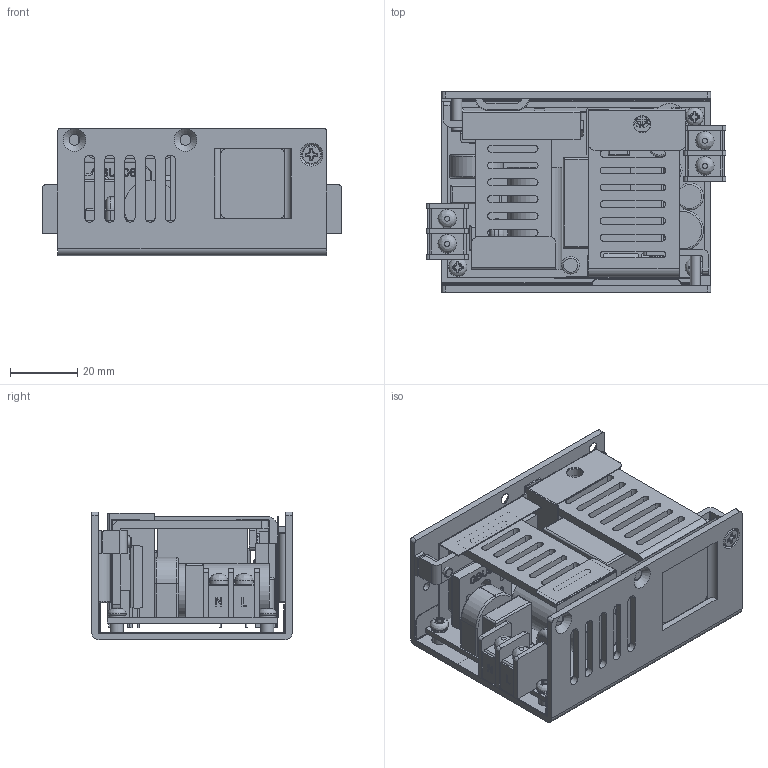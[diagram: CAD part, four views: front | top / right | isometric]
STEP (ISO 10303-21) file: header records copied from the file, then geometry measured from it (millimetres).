
FILE_DESCRIPTION(/* description */ (''),/* implementation_level */ '2;1');
FILE_NAME(/* name */ 'D:\Inventor\3D FILE\SZA60U.stp',/* time_stamp */ '2020-03-13T11:47:58+08:00',/* author */ ('peter'),/* organization */ (''),/* preprocessor_version */ 'ST-DEVELOPER v15.2',/* originating_system */ 'Autodesk Inventor 2014',/* authorisation */ '');
FILE_SCHEMA (('AUTOMOTIVE_DESIGN { 1 0 10303 214 3 1 1 }'));
Length unit declared in the file: millimetre
Products named in the file (36): BOT CASE - ARCH; M3 x 5 mm; R380MSZA6008 _ MYLAR - BOT CASE _ TRACO; PCB; BD1; HEATSINK - X1; TO-220FP; HEATSINK - X2; TO-220FP_1; TO-220FP_2; VR; INLET 9 mm; INLET 9 mm_1; INLET - IN; INLET 9 mm_2; INLET 9 mm_3; INLET - OUT; MYLAR - X1_EC102 - F101_CY101; Y -- C; R380MSZA6016 _ MYLAR 10x10  1.0T; R380MSZA6015 _ L-MYLAR 20x31 0.46T; QC PASS; L HEATSINK - L19_W7_H7R5 mm; SCREW PH M3 x 10 mm; SCREW PH M3 x 6 mm; SILICON - 40 X 38 X R3 mm; R380SSZA6002 _ SILICON - 40 X 30 X R3 mm; SCREW CH M3_6mm; LABEL _ SZA60U-24S; R380MSZA6012 _ MYLAR - X2 HS; R380MSZA6011 _ MYLAR - X1 HS; R378SZA6007 _ HEATSINK 7x3x1T mm; R378SZA6006 _ HEATSINK 7x3x3T mm; ASSEMBLY - ARCH
Bounding box: 89.2 x 59.7 x 38 mm (x, y, z)
Volume: 72774.2 mm3; surface area: 81932.2 mm2
Topology: 44 solids, 45 shells, 1695 faces, 4352 edges, 2832 vertices
Faces by surface type: plane 957, cylinder 337, bspline 281, cone 63, torus 57
Full cylindrical faces by diameter (mm): 0.45 x3, 0.5 x1, 0.6 x2, 1.85 x2, 2.459 x19, 3 x7, 3.2 x13, 4 x8, 4.5 x4, 5 x2, 5.225 x1, 5.295 x1, 5.5 x4, 5.8 x3, 7.432 x1, 7.544 x1, 8 x1, 10 x1, 16 x1
Entity records: 48424 total; most frequent: CARTESIAN_POINT 12005, ORIENTED_EDGE 7500, DIRECTION 6457, EDGE_CURVE 3748, VERTEX_POINT 2503, LINE 2483, VECTOR 2483, AXIS2_PLACEMENT_3D 1987
